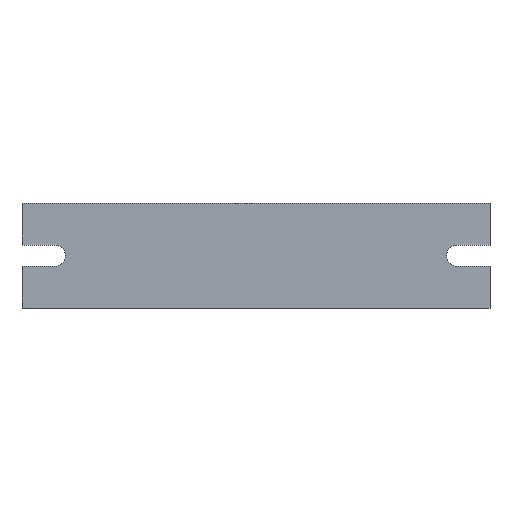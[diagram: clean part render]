
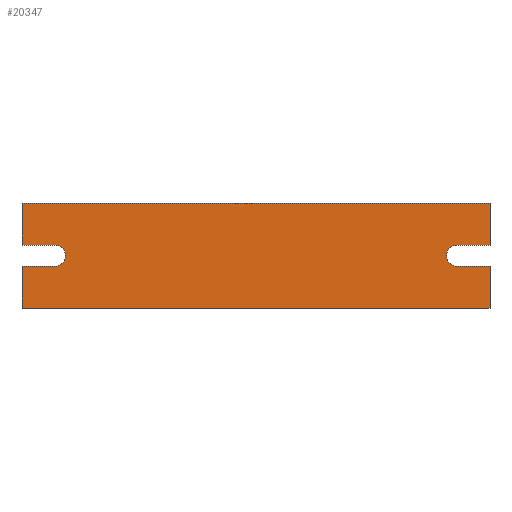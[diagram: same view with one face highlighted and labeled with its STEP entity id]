
A CAD part, top view. The second image highlights one B-rep face of the part: STEP entity #20347.
In plain terms, the highlighted planar face has unit normal (0, 0, 1).
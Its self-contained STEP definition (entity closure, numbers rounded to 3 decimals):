
#98 = EDGE_CURVE ( 'NONE', #19333, #15488, #21725, .T. ) ;
#696 = VECTOR ( 'NONE', #21246, 1000. ) ;
#824 = VERTEX_POINT ( 'NONE', #8227 ) ;
#930 = VECTOR ( 'NONE', #10335, 1000. ) ;
#992 = LINE ( 'NONE', #13234, #7343 ) ;
#1050 = EDGE_CURVE ( 'NONE', #4951, #22795, #15916, .T. ) ;
#1769 = AXIS2_PLACEMENT_3D ( 'NONE', #16580, #4219, #21701 ) ;
#2171 = EDGE_CURVE ( 'NONE', #22795, #13358, #10576, .T. ) ;
#2184 = ORIENTED_EDGE ( 'NONE', *, *, #15118, .F. ) ;
#2273 = EDGE_CURVE ( 'NONE', #11022, #6930, #12833, .T. ) ;
#2542 = AXIS2_PLACEMENT_3D ( 'NONE', #18367, #2927, #9945 ) ;
#2827 = CARTESIAN_POINT ( 'NONE',  ( 78., 17.5, 46. ) ) ;
#2927 = DIRECTION ( 'NONE',  ( 0., 0., 1. ) ) ;
#2978 = CARTESIAN_POINT ( 'NONE',  ( 78., -17.5, 46. ) ) ;
#3097 = DIRECTION ( 'NONE',  ( 1., 0., 0. ) ) ;
#3100 = CARTESIAN_POINT ( 'NONE',  ( 78., -174.219, 46. ) ) ;
#3304 = CARTESIAN_POINT ( 'NONE',  ( 68.985, -3.5, 46. ) ) ;
#3420 = CARTESIAN_POINT ( 'NONE',  ( 67., 3.5, 46. ) ) ;
#3598 = VERTEX_POINT ( 'NONE', #19602 ) ;
#4219 = DIRECTION ( 'NONE',  ( 0., 0., 1. ) ) ;
#4836 = EDGE_CURVE ( 'NONE', #13358, #3598, #992, .T. ) ;
#4951 = VERTEX_POINT ( 'NONE', #10353 ) ;
#5404 = ORIENTED_EDGE ( 'NONE', *, *, #98, .F. ) ;
#5683 = CARTESIAN_POINT ( 'NONE',  ( 68.985, 17.5, 46. ) ) ;
#5774 = VECTOR ( 'NONE', #11109, 1000. ) ;
#6027 = ORIENTED_EDGE ( 'NONE', *, *, #2171, .F. ) ;
#6199 = EDGE_CURVE ( 'NONE', #824, #9874, #20244, .T. ) ;
#6641 = VERTEX_POINT ( 'NONE', #2978 ) ;
#6643 = LINE ( 'NONE', #20714, #20732 ) ;
#6724 = CARTESIAN_POINT ( 'NONE',  ( -63.5, 0., 46. ) ) ;
#6930 = VERTEX_POINT ( 'NONE', #2827 ) ;
#7160 = ORIENTED_EDGE ( 'NONE', *, *, #2273, .F. ) ;
#7246 = DIRECTION ( 'NONE',  ( 0., 0., 1. ) ) ;
#7343 = VECTOR ( 'NONE', #3097, 1000. ) ;
#7427 = VECTOR ( 'NONE', #16586, 1000. ) ;
#7823 = CARTESIAN_POINT ( 'NONE',  ( -78., -174.219, 46. ) ) ;
#8200 = DIRECTION ( 'NONE',  ( -1., 0., 0. ) ) ;
#8227 = CARTESIAN_POINT ( 'NONE',  ( -78., -17.5, 46. ) ) ;
#9144 = VECTOR ( 'NONE', #14820, 1000. ) ;
#9211 = CIRCLE ( 'NONE', #11053, 3.5 ) ;
#9616 = CARTESIAN_POINT ( 'NONE',  ( -78., -174.219, 46. ) ) ;
#9724 = LINE ( 'NONE', #14927, #9144 ) ;
#9781 = EDGE_CURVE ( 'NONE', #9874, #15851, #19102, .T. ) ;
#9874 = VERTEX_POINT ( 'NONE', #12687 ) ;
#9945 = DIRECTION ( 'NONE',  ( 1., 0., 0. ) ) ;
#10054 = CARTESIAN_POINT ( 'NONE',  ( -78., 17.5, 46. ) ) ;
#10335 = DIRECTION ( 'NONE',  ( 1., 0., 0. ) ) ;
#10353 = CARTESIAN_POINT ( 'NONE',  ( 78., 3.5, 46. ) ) ;
#10576 = CIRCLE ( 'NONE', #19412, 3.5 ) ;
#10665 = DIRECTION ( 'NONE',  ( 0., 0., 1. ) ) ;
#11022 = VERTEX_POINT ( 'NONE', #10054 ) ;
#11053 = AXIS2_PLACEMENT_3D ( 'NONE', #12633, #7246, #19697 ) ;
#11109 = DIRECTION ( 'NONE',  ( 1., 0., 0. ) ) ;
#11257 = PLANE ( 'NONE',  #1769 ) ;
#12633 = CARTESIAN_POINT ( 'NONE',  ( -67., 0., 46. ) ) ;
#12687 = CARTESIAN_POINT ( 'NONE',  ( -78., -3.5, 46. ) ) ;
#12833 = LINE ( 'NONE', #5683, #5774 ) ;
#12875 = LINE ( 'NONE', #7823, #7427 ) ;
#13105 = ORIENTED_EDGE ( 'NONE', *, *, #22242, .F. ) ;
#13234 = CARTESIAN_POINT ( 'NONE',  ( 88.475, -3.5, 46. ) ) ;
#13358 = VERTEX_POINT ( 'NONE', #17721 ) ;
#13585 = DIRECTION ( 'NONE',  ( 0., 1., 0. ) ) ;
#13637 = ORIENTED_EDGE ( 'NONE', *, *, #21235, .F. ) ;
#13681 = CARTESIAN_POINT ( 'NONE',  ( 67., 0., 46. ) ) ;
#13682 = EDGE_LOOP ( 'NONE', ( #21979, #5404, #13637, #21096, #21105, #13105, #15727, #13836, #6027, #22771, #17998, #7160, #2184 ) ) ;
#13836 = ORIENTED_EDGE ( 'NONE', *, *, #4836, .F. ) ;
#14218 = CARTESIAN_POINT ( 'NONE',  ( -67., 3.5, 46. ) ) ;
#14820 = DIRECTION ( 'NONE',  ( 0., 1., 0. ) ) ;
#14927 = CARTESIAN_POINT ( 'NONE',  ( 78., -174.219, 46. ) ) ;
#15118 = EDGE_CURVE ( 'NONE', #17088, #11022, #12875, .T. ) ;
#15236 = LINE ( 'NONE', #18690, #17449 ) ;
#15327 = CARTESIAN_POINT ( 'NONE',  ( -67., -3.5, 46. ) ) ;
#15488 = VERTEX_POINT ( 'NONE', #14218 ) ;
#15527 = DIRECTION ( 'NONE',  ( 1., 0., 0. ) ) ;
#15727 = ORIENTED_EDGE ( 'NONE', *, *, #19648, .T. ) ;
#15851 = VERTEX_POINT ( 'NONE', #15327 ) ;
#15916 = LINE ( 'NONE', #21739, #696 ) ;
#16248 = VECTOR ( 'NONE', #18736, 1000. ) ;
#16461 = EDGE_CURVE ( 'NONE', #15488, #17088, #15236, .T. ) ;
#16580 = CARTESIAN_POINT ( 'NONE',  ( 68.985, -174.219, 46. ) ) ;
#16586 = DIRECTION ( 'NONE',  ( 0., 1., 0. ) ) ;
#17088 = VERTEX_POINT ( 'NONE', #21162 ) ;
#17449 = VECTOR ( 'NONE', #8200, 1000. ) ;
#17721 = CARTESIAN_POINT ( 'NONE',  ( 67., -3.5, 46. ) ) ;
#17998 = ORIENTED_EDGE ( 'NONE', *, *, #19959, .T. ) ;
#18367 = CARTESIAN_POINT ( 'NONE',  ( -67., 0., 46. ) ) ;
#18429 = FACE_OUTER_BOUND ( 'NONE', #13682, .T. ) ;
#18690 = CARTESIAN_POINT ( 'NONE',  ( -81.035, 3.5, 46. ) ) ;
#18736 = DIRECTION ( 'NONE',  ( 0., 1., 0. ) ) ;
#19058 = VECTOR ( 'NONE', #13585, 1000. ) ;
#19102 = LINE ( 'NONE', #3304, #930 ) ;
#19286 = DIRECTION ( 'NONE',  ( -1., 0., 0. ) ) ;
#19333 = VERTEX_POINT ( 'NONE', #6724 ) ;
#19412 = AXIS2_PLACEMENT_3D ( 'NONE', #13681, #10665, #15527 ) ;
#19602 = CARTESIAN_POINT ( 'NONE',  ( 78., -3.5, 46. ) ) ;
#19648 = EDGE_CURVE ( 'NONE', #6641, #3598, #20986, .T. ) ;
#19697 = DIRECTION ( 'NONE',  ( 1., 0., 0. ) ) ;
#19959 = EDGE_CURVE ( 'NONE', #4951, #6930, #9724, .T. ) ;
#20244 = LINE ( 'NONE', #9616, #16248 ) ;
#20347 = ADVANCED_FACE ( 'NONE', ( #18429 ), #11257, .T. ) ;
#20714 = CARTESIAN_POINT ( 'NONE',  ( 68.985, -17.5, 46. ) ) ;
#20732 = VECTOR ( 'NONE', #19286, 1000. ) ;
#20986 = LINE ( 'NONE', #3100, #19058 ) ;
#21096 = ORIENTED_EDGE ( 'NONE', *, *, #9781, .F. ) ;
#21105 = ORIENTED_EDGE ( 'NONE', *, *, #6199, .F. ) ;
#21162 = CARTESIAN_POINT ( 'NONE',  ( -78., 3.5, 46. ) ) ;
#21235 = EDGE_CURVE ( 'NONE', #15851, #19333, #9211, .T. ) ;
#21246 = DIRECTION ( 'NONE',  ( -1., 0., 0. ) ) ;
#21701 = DIRECTION ( 'NONE',  ( 1., 0., 0. ) ) ;
#21725 = CIRCLE ( 'NONE', #2542, 3.5 ) ;
#21739 = CARTESIAN_POINT ( 'NONE',  ( 68.985, 3.5, 46. ) ) ;
#21979 = ORIENTED_EDGE ( 'NONE', *, *, #16461, .F. ) ;
#22242 = EDGE_CURVE ( 'NONE', #6641, #824, #6643, .T. ) ;
#22771 = ORIENTED_EDGE ( 'NONE', *, *, #1050, .F. ) ;
#22795 = VERTEX_POINT ( 'NONE', #3420 ) ;
